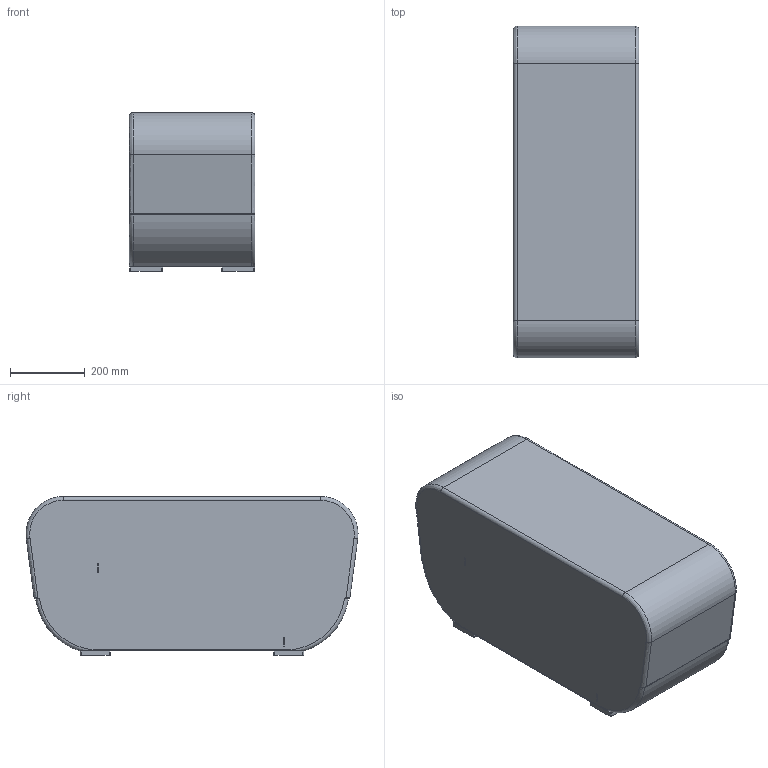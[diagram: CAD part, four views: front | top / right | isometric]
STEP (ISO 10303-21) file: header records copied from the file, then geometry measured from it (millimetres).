
FILE_DESCRIPTION(/* description */ (''),/* implementation_level */ '2;1');
FILE_NAME(/* name */ 'OPF24A~1',/* time_stamp */ '2015-09-28T22:10:01+02:00',/* author */ (''),/* organization */ (''),/* preprocessor_version */ 'ST-DEVELOPER v15',/* originating_system */ '',/* authorisation */ '');
FILE_SCHEMA (('AUTOMOTIVE_DESIGN'));
Length unit declared in the file: millimetre
Products named in the file (1): Document
Bounding box: 335.5 x 885.34 x 424 mm (x, y, z)
Volume: 337549.2 mm3; surface area: 1518791.6 mm2
Topology: 4 solids, 10 shells, 74 faces, 205 edges, 145 vertices
Faces by surface type: bspline 58, plane 16
Entity records: 2686 total; most frequent: CARTESIAN_POINT 1526, ORIENTED_EDGE 348, EDGE_CURVE 204, VERTEX_POINT 144, ADVANCED_FACE 74, FACE_OUTER_BOUND 74, EDGE_LOOP 74, B_SPLINE_CURVE_WITH_KNOTS 39
